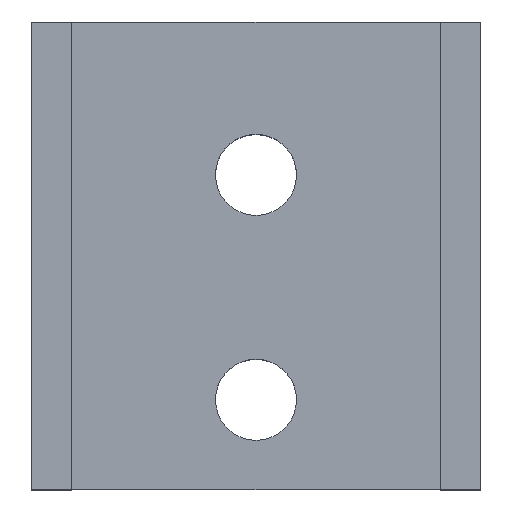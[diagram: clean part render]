
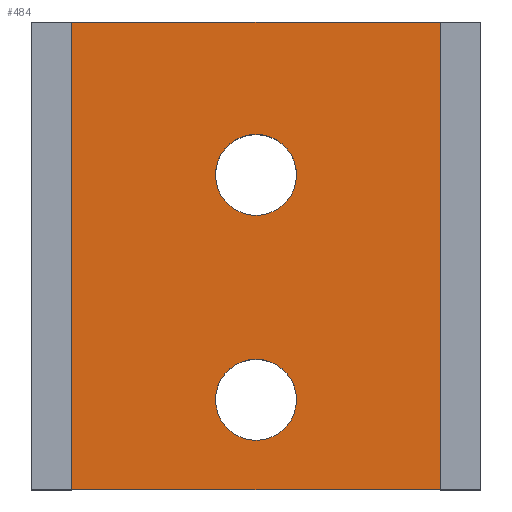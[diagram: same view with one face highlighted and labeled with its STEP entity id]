
A CAD part, top view. The second image highlights one B-rep face of the part: STEP entity #484.
In plain terms, the highlighted planar face has unit normal (0, 0, 1).
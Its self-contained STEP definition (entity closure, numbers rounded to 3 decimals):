
#3 = VECTOR ( 'NONE', #237, 1000. ) ;
#4 = EDGE_CURVE ( 'NONE', #129, #259, #346, .T. ) ;
#5 = CARTESIAN_POINT ( 'NONE',  ( 0., 9., 6.5 ) ) ;
#8 = ORIENTED_EDGE ( 'NONE', *, *, #317, .F. ) ;
#9 = DIRECTION ( 'NONE',  ( 1., 0., 0. ) ) ;
#50 = CARTESIAN_POINT ( 'NONE',  ( 20.5, 26., 6.5 ) ) ;
#56 = CARTESIAN_POINT ( 'NONE',  ( -4.5, 9., 6.5 ) ) ;
#73 = CIRCLE ( 'NONE', #455, 4.5 ) ;
#76 = CIRCLE ( 'NONE', #554, 4.5 ) ;
#79 = CARTESIAN_POINT ( 'NONE',  ( -20.5, 26., 6.5 ) ) ;
#83 = ORIENTED_EDGE ( 'NONE', *, *, #527, .F. ) ;
#87 = DIRECTION ( 'NONE',  ( 1., 0., 0. ) ) ;
#114 = EDGE_CURVE ( 'NONE', #509, #465, #73, .T. ) ;
#115 = DIRECTION ( 'NONE',  ( 0., 0., 1. ) ) ;
#117 = CIRCLE ( 'NONE', #285, 4.5 ) ;
#118 = EDGE_CURVE ( 'NONE', #380, #129, #463, .T. ) ;
#129 = VERTEX_POINT ( 'NONE', #385 ) ;
#133 = EDGE_LOOP ( 'NONE', ( #83, #8 ) ) ;
#141 = CARTESIAN_POINT ( 'NONE',  ( -20.5, 26., 6.5 ) ) ;
#154 = CARTESIAN_POINT ( 'NONE',  ( 4.5, 9., 6.5 ) ) ;
#156 = CARTESIAN_POINT ( 'NONE',  ( -20.5, 26., 6.5 ) ) ;
#162 = EDGE_CURVE ( 'NONE', #380, #438, #475, .T. ) ;
#187 = ORIENTED_EDGE ( 'NONE', *, *, #550, .F. ) ;
#229 = CARTESIAN_POINT ( 'NONE',  ( -4.5, -16., 6.5 ) ) ;
#237 = DIRECTION ( 'NONE',  ( 1., 0., 0. ) ) ;
#238 = EDGE_LOOP ( 'NONE', ( #187, #300 ) ) ;
#255 = VECTOR ( 'NONE', #485, 1000. ) ;
#259 = VERTEX_POINT ( 'NONE', #482 ) ;
#262 = CIRCLE ( 'NONE', #336, 4.5 ) ;
#278 = FACE_BOUND ( 'NONE', #238, .T. ) ;
#285 = AXIS2_PLACEMENT_3D ( 'NONE', #601, #115, #598 ) ;
#289 = CARTESIAN_POINT ( 'NONE',  ( 0., -16., 6.5 ) ) ;
#300 = ORIENTED_EDGE ( 'NONE', *, *, #114, .F. ) ;
#316 = VERTEX_POINT ( 'NONE', #56 ) ;
#317 = EDGE_CURVE ( 'NONE', #316, #461, #262, .T. ) ;
#336 = AXIS2_PLACEMENT_3D ( 'NONE', #5, #445, #9 ) ;
#346 = LINE ( 'NONE', #370, #3 ) ;
#365 = CARTESIAN_POINT ( 'NONE',  ( -20.5, 26., 6.5 ) ) ;
#369 = EDGE_CURVE ( 'NONE', #438, #259, #503, .T. ) ;
#370 = CARTESIAN_POINT ( 'NONE',  ( -20.5, -26., 6.5 ) ) ;
#375 = DIRECTION ( 'NONE',  ( 0., 0., 1. ) ) ;
#380 = VERTEX_POINT ( 'NONE', #156 ) ;
#381 = FACE_BOUND ( 'NONE', #133, .T. ) ;
#385 = CARTESIAN_POINT ( 'NONE',  ( -20.5, -26., 6.5 ) ) ;
#387 = CARTESIAN_POINT ( 'NONE',  ( 20.5, 26., 6.5 ) ) ;
#390 = VECTOR ( 'NONE', #424, 1000. ) ;
#392 = ORIENTED_EDGE ( 'NONE', *, *, #118, .T. ) ;
#396 = CARTESIAN_POINT ( 'NONE',  ( 4.5, -16., 6.5 ) ) ;
#410 = VECTOR ( 'NONE', #429, 1000. ) ;
#421 = DIRECTION ( 'NONE',  ( -1., 0., 0. ) ) ;
#424 = DIRECTION ( 'NONE',  ( 0., -1., 0. ) ) ;
#429 = DIRECTION ( 'NONE',  ( 1., 0., 0. ) ) ;
#434 = ORIENTED_EDGE ( 'NONE', *, *, #162, .F. ) ;
#438 = VERTEX_POINT ( 'NONE', #50 ) ;
#445 = DIRECTION ( 'NONE',  ( 0., 0., 1. ) ) ;
#448 = AXIS2_PLACEMENT_3D ( 'NONE', #79, #506, #421 ) ;
#455 = AXIS2_PLACEMENT_3D ( 'NONE', #289, #375, #87 ) ;
#460 = PLANE ( 'NONE',  #448 ) ;
#461 = VERTEX_POINT ( 'NONE', #154 ) ;
#463 = LINE ( 'NONE', #365, #390 ) ;
#465 = VERTEX_POINT ( 'NONE', #396 ) ;
#467 = DIRECTION ( 'NONE',  ( 1., 0., 0. ) ) ;
#469 = DIRECTION ( 'NONE',  ( 0., 0., 1. ) ) ;
#475 = LINE ( 'NONE', #141, #410 ) ;
#482 = CARTESIAN_POINT ( 'NONE',  ( 20.5, -26., 6.5 ) ) ;
#484 = ADVANCED_FACE ( 'NONE', ( #278, #381, #545 ), #460, .F. ) ;
#485 = DIRECTION ( 'NONE',  ( 0., -1., 0. ) ) ;
#503 = LINE ( 'NONE', #387, #255 ) ;
#506 = DIRECTION ( 'NONE',  ( 0., 0., -1. ) ) ;
#509 = VERTEX_POINT ( 'NONE', #229 ) ;
#527 = EDGE_CURVE ( 'NONE', #461, #316, #76, .T. ) ;
#545 = FACE_OUTER_BOUND ( 'NONE', #565, .T. ) ;
#547 = ORIENTED_EDGE ( 'NONE', *, *, #369, .F. ) ;
#550 = EDGE_CURVE ( 'NONE', #465, #509, #117, .T. ) ;
#554 = AXIS2_PLACEMENT_3D ( 'NONE', #596, #469, #467 ) ;
#565 = EDGE_LOOP ( 'NONE', ( #603, #547, #434, #392 ) ) ;
#596 = CARTESIAN_POINT ( 'NONE',  ( 0., 9., 6.5 ) ) ;
#598 = DIRECTION ( 'NONE',  ( 1., 0., 0. ) ) ;
#601 = CARTESIAN_POINT ( 'NONE',  ( 0., -16., 6.5 ) ) ;
#603 = ORIENTED_EDGE ( 'NONE', *, *, #4, .T. ) ;
